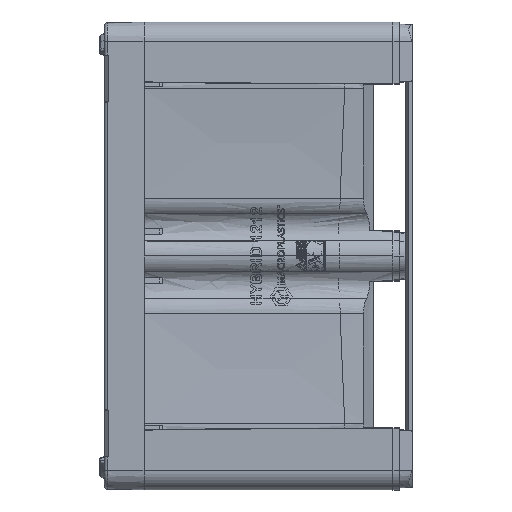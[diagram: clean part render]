
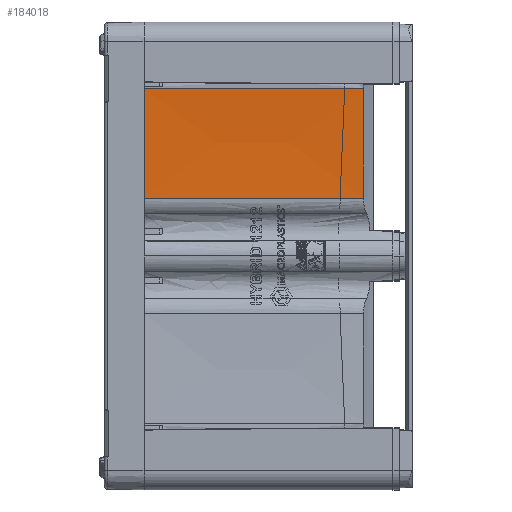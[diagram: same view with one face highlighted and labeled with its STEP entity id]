
A CAD part, left-side view. The second image highlights one B-rep face of the part: STEP entity #184018.
In plain terms, the highlighted free-form (B-spline) face has degree [3, 3] with [7, 4] control points.
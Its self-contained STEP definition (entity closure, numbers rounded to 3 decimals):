
#2121 = CARTESIAN_POINT ( 'NONE',  ( -550.931, 312.147, 289.141 ) ) ;
#3232 = CARTESIAN_POINT ( 'NONE',  ( -557.275, 312.147, 383.076 ) ) ;
#5293 = EDGE_CURVE ( 'NONE', #148531, #156116, #268511, .T. ) ;
#8081 = CARTESIAN_POINT ( 'NONE',  ( -566.608, 688.4, 336.151 ) ) ;
#9841 = CARTESIAN_POINT ( 'NONE',  ( -575.478, 688.4, 429.838 ) ) ;
#10976 = CARTESIAN_POINT ( 'NONE',  ( -555.836, 125.942, 429.838 ) ) ;
#11759 = CARTESIAN_POINT ( 'NONE',  ( -555.836, 125.942, 429.838 ) ) ;
#15973 = CARTESIAN_POINT ( 'NONE',  ( -540.615, 125.712, 148.032 ) ) ;
#19804 = B_SPLINE_CURVE_WITH_KNOTS ( 'NONE', 3,
 ( #15973, #249213, #65324, #91122, #66433, #95506, #300725, #324341, #42877, #274979 ),
 .UNSPECIFIED., .F., .F.,
 ( 4, 2, 2, 2, 4 ),
 ( 0., 0.071, 0.141, 0.212, 0.282 ),
 .UNSPECIFIED. ) ;
#26866 = CARTESIAN_POINT ( 'NONE',  ( -560.097, 501.962, 336.142 ) ) ;
#32866 = CARTESIAN_POINT ( 'NONE',  ( -560.264, 688.4, 195.098 ) ) ;
#42877 = CARTESIAN_POINT ( 'NONE',  ( -553.301, 125.903, 406.443 ) ) ;
#50430 = CARTESIAN_POINT ( 'NONE',  ( -541.766, 122.332, 242.139 ) ) ;
#54808 = CARTESIAN_POINT ( 'NONE',  ( -566.726, 691.776, 336.142 ) ) ;
#56363 = CARTESIAN_POINT ( 'NONE',  ( -575.478, 688.4, 429.838 ) ) ;
#57453 = CARTESIAN_POINT ( 'NONE',  ( -570.411, 688.4, 383.046 ) ) ;
#65324 = CARTESIAN_POINT ( 'NONE',  ( -540.932, 125.716, 195.091 ) ) ;
#66433 = CARTESIAN_POINT ( 'NONE',  ( -543.154, 125.75, 265.647 ) ) ;
#68988 = CARTESIAN_POINT ( 'NONE',  ( -560.264, 688.4, 148.032 ) ) ;
#76214 = CARTESIAN_POINT ( 'NONE',  ( -547.125, 312.147, 195.068 ) ) ;
#81079 = CARTESIAN_POINT ( 'NONE',  ( -560.264, 688.4, 148.032 ) ) ;
#88257 = B_SPLINE_CURVE_WITH_KNOTS ( 'NONE', 3,
 ( #292856, #323071, #271514, #243520 ),
 .UNSPECIFIED., .F., .F.,
 ( 4, 4 ),
 ( 0.147, 0.963 ),
 .UNSPECIFIED. ) ;
#91122 = CARTESIAN_POINT ( 'NONE',  ( -542.202, 125.735, 242.131 ) ) ;
#91345 = VERTEX_POINT ( 'NONE', #297005 ) ;
#95506 = CARTESIAN_POINT ( 'NONE',  ( -545.692, 125.788, 312.635 ) ) ;
#99459 = B_SPLINE_SURFACE_WITH_KNOTS ( 'NONE', 3, 3, ( 
 ( #226545, #155813, #104198, #256740 ),
 ( #101969, #76214, #255647, #205208 ),
 ( #50430, #229872, #281453, #283643 ),
 ( #156927, #2121, #284752, #310491 ),
 ( #179407, #127822, #26866, #54808 ),
 ( #100876, #3232, #105309, #182734 ),
 ( #280347, #178312, #309384, #233202 ) ),
 .UNSPECIFIED., .F., .F., .F.,
 ( 4, 3, 4 ),
 ( 4, 4 ),
 ( 0., 0.5, 1. ),
 ( 0.033, 0.858 ),
 .UNSPECIFIED. ) ;
#100876 = CARTESIAN_POINT ( 'NONE',  ( -550.646, 122.333, 383.076 ) ) ;
#101969 = CARTESIAN_POINT ( 'NONE',  ( -540.497, 122.332, 195.068 ) ) ;
#104198 = CARTESIAN_POINT ( 'NONE',  ( -553.754, 501.962, 148.032 ) ) ;
#105309 = CARTESIAN_POINT ( 'NONE',  ( -563.903, 501.962, 383.076 ) ) ;
#121663 = EDGE_LOOP ( 'NONE', ( #294204, #165191, #307897, #209074 ) ) ;
#127822 = CARTESIAN_POINT ( 'NONE',  ( -553.469, 312.147, 336.142 ) ) ;
#138832 = EDGE_CURVE ( 'NONE', #91345, #298663, #19804, .T. ) ;
#148531 = VERTEX_POINT ( 'NONE', #68988 ) ;
#155813 = CARTESIAN_POINT ( 'NONE',  ( -547.125, 312.147, 148.032 ) ) ;
#156116 = VERTEX_POINT ( 'NONE', #271049 ) ;
#156927 = CARTESIAN_POINT ( 'NONE',  ( -544.303, 122.332, 289.141 ) ) ;
#164683 = CARTESIAN_POINT ( 'NONE',  ( -562.383, 313.428, 429.838 ) ) ;
#165191 = ORIENTED_EDGE ( 'NONE', *, *, #138832, .T. ) ;
#178312 = CARTESIAN_POINT ( 'NONE',  ( -562.338, 312.148, 429.838 ) ) ;
#179407 = CARTESIAN_POINT ( 'NONE',  ( -546.84, 122.333, 336.142 ) ) ;
#182734 = CARTESIAN_POINT ( 'NONE',  ( -570.532, 691.777, 383.076 ) ) ;
#184018 = ADVANCED_FACE ( 'NONE', ( #255495 ), #99459, .F. ) ;
#189410 = CARTESIAN_POINT ( 'NONE',  ( -568.93, 500.914, 429.838 ) ) ;
#205208 = CARTESIAN_POINT ( 'NONE',  ( -560.382, 691.776, 195.068 ) ) ;
#209074 = ORIENTED_EDGE ( 'NONE', *, *, #5293, .F. ) ;
#226545 = CARTESIAN_POINT ( 'NONE',  ( -540.497, 122.332, 148.032 ) ) ;
#229779 = EDGE_CURVE ( 'NONE', #156116, #298663, #300691, .T. ) ;
#229872 = CARTESIAN_POINT ( 'NONE',  ( -548.394, 312.147, 242.139 ) ) ;
#233202 = CARTESIAN_POINT ( 'NONE',  ( -575.595, 691.777, 429.838 ) ) ;
#243520 = CARTESIAN_POINT ( 'NONE',  ( -540.615, 125.712, 148.032 ) ) ;
#249213 = CARTESIAN_POINT ( 'NONE',  ( -540.615, 125.709, 171.564 ) ) ;
#255495 = FACE_OUTER_BOUND ( 'NONE', #121663, .T. ) ;
#255647 = CARTESIAN_POINT ( 'NONE',  ( -553.754, 501.962, 195.068 ) ) ;
#256740 = CARTESIAN_POINT ( 'NONE',  ( -560.382, 691.776, 148.032 ) ) ;
#264904 = CARTESIAN_POINT ( 'NONE',  ( -561.534, 688.4, 242.156 ) ) ;
#268511 = B_SPLINE_CURVE_WITH_KNOTS ( 'NONE', 3,
 ( #81079, #32866, #264904, #8081, #57453, #56363 ),
 .UNSPECIFIED., .F., .F.,
 ( 4, 2, 4 ),
 ( 0., 0.141, 0.282 ),
 .UNSPECIFIED. ) ;
#271049 = CARTESIAN_POINT ( 'NONE',  ( -575.478, 688.4, 429.838 ) ) ;
#271514 = CARTESIAN_POINT ( 'NONE',  ( -547.165, 313.275, 148.032 ) ) ;
#274979 = CARTESIAN_POINT ( 'NONE',  ( -555.836, 125.942, 429.838 ) ) ;
#280347 = CARTESIAN_POINT ( 'NONE',  ( -555.71, 122.333, 429.838 ) ) ;
#281453 = CARTESIAN_POINT ( 'NONE',  ( -555.022, 501.962, 242.139 ) ) ;
#283643 = CARTESIAN_POINT ( 'NONE',  ( -561.651, 691.776, 242.139 ) ) ;
#284752 = CARTESIAN_POINT ( 'NONE',  ( -557.56, 501.962, 289.141 ) ) ;
#292856 = CARTESIAN_POINT ( 'NONE',  ( -560.264, 688.4, 148.032 ) ) ;
#294204 = ORIENTED_EDGE ( 'NONE', *, *, #297203, .T. ) ;
#297005 = CARTESIAN_POINT ( 'NONE',  ( -540.615, 125.712, 148.032 ) ) ;
#297203 = EDGE_CURVE ( 'NONE', #148531, #91345, #88257, .T. ) ;
#298663 = VERTEX_POINT ( 'NONE', #11759 ) ;
#300691 = B_SPLINE_CURVE_WITH_KNOTS ( 'NONE', 3,
 ( #9841, #189410, #164683, #10976 ),
 .UNSPECIFIED., .F., .F.,
 ( 4, 4 ),
 ( 0.147, 0.963 ),
 .UNSPECIFIED. ) ;
#300725 = CARTESIAN_POINT ( 'NONE',  ( -547.278, 125.812, 336.115 ) ) ;
#307897 = ORIENTED_EDGE ( 'NONE', *, *, #229779, .F. ) ;
#309384 = CARTESIAN_POINT ( 'NONE',  ( -568.967, 501.962, 429.838 ) ) ;
#310491 = CARTESIAN_POINT ( 'NONE',  ( -564.188, 691.776, 289.141 ) ) ;
#323071 = CARTESIAN_POINT ( 'NONE',  ( -553.715, 500.837, 148.032 ) ) ;
#324341 = CARTESIAN_POINT ( 'NONE',  ( -551.083, 125.869, 383.02 ) ) ;
